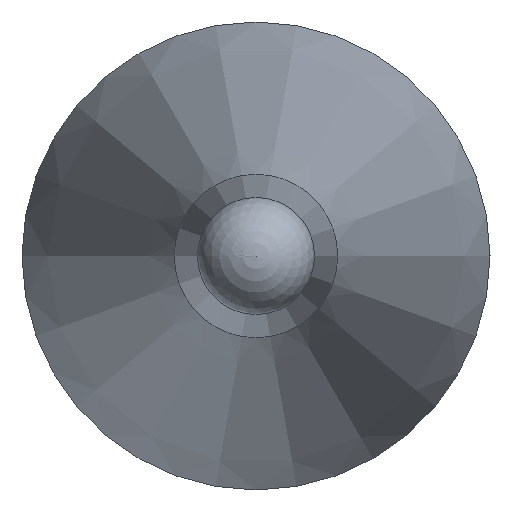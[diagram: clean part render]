
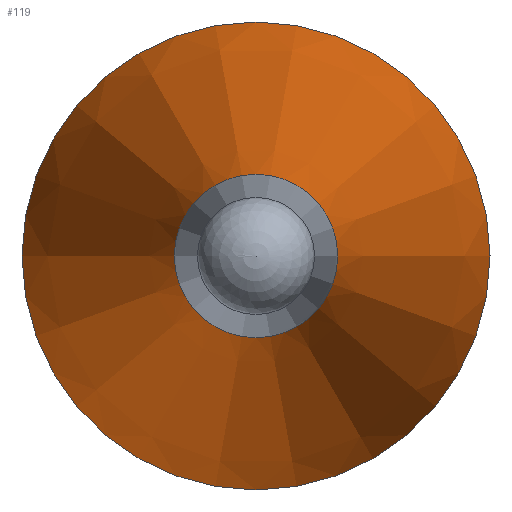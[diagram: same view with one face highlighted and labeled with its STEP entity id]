
A CAD part, left-side view. The second image highlights one B-rep face of the part: STEP entity #119.
In plain terms, the highlighted conical face has half-angle 12 degrees and reference radius 2 mm.
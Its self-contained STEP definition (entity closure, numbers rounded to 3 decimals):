
#97=CONICAL_SURFACE('',#194,2.,12.);
#106=FACE_BOUND('',#134,.T.);
#107=FACE_BOUND('',#135,.T.);
#119=ADVANCED_FACE('',(#106,#107),#97,.T.);
#134=EDGE_LOOP('',(#150));
#135=EDGE_LOOP('',(#151));
#150=ORIENTED_EDGE('',*,*,#172,.T.);
#151=ORIENTED_EDGE('',*,*,#173,.F.);
#164=VERTEX_POINT('',#249);
#165=VERTEX_POINT('',#252);
#172=EDGE_CURVE('',#164,#164,#180,.T.);
#173=EDGE_CURVE('',#165,#165,#181,.T.);
#180=CIRCLE('',#191,0.698);
#181=CIRCLE('',#193,2.);
#191=AXIS2_PLACEMENT_3D('',#248,#215,#216);
#193=AXIS2_PLACEMENT_3D('',#251,#219,#220);
#194=AXIS2_PLACEMENT_3D('',#253,#221,#222);
#215=DIRECTION('',(1.,0.,0.));
#216=DIRECTION('',(0.,1.,0.));
#219=DIRECTION('',(1.,0.,0.));
#220=DIRECTION('',(0.,1.,0.));
#221=DIRECTION('',(1.,0.,0.));
#222=DIRECTION('',(0.,1.,0.));
#248=CARTESIAN_POINT('',(7908.912,6103.288,0.));
#249=CARTESIAN_POINT('',(7908.912,6103.986,0.));
#251=CARTESIAN_POINT('',(7915.037,6103.288,0.));
#252=CARTESIAN_POINT('',(7915.037,6105.288,0.));
#253=CARTESIAN_POINT('',(7915.037,6103.288,0.));
